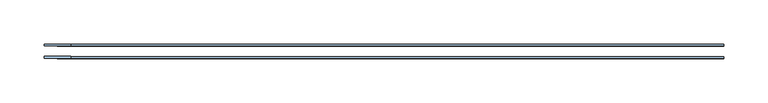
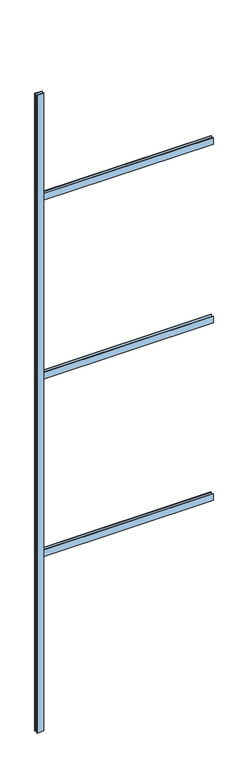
"""IFC4 building model written with IfcOpenShell, lengths in millimetres: window geometry, 32_IM_CF_verdeling_roedes : 32_IM_CF_verdeling_roedes_1x4."""

from ifc_helpers import new_model, si_unit, frame, origin, origin_with_axes, place, context, project, spatial, polyline, outline, extrude, source, transform, mapped, element, save


def window_8e28edf6(model_context):
    return source(origin(), model_context, "Body", "SweptSolid", [
        extrude(outline(polyline([(-362.9999998, -6.0), (-362.9999998, -8.0), (-392.9999998, -8.0), (-392.9999998, -6.0), (-362.9999998, -6.0)])), origin_with_axes(), (0.0, 0.0, 1.0), 2945.0),
        extrude(outline(polyline([(-392.9999998, 8.0), (-362.9999998, 8.0), (-362.9999998, 6.0), (-392.9999998, 6.0), (-392.9999998, 8.0)])), origin_with_axes(), (0.0, 0.0, 1.0), 2945.0),
        extrude(outline(polyline([(377.9999998, -8.0), (-377.9999998, -8.0), (-377.9999998, -6.0), (377.9999998, -6.0), (377.9999998, -8.0)])), frame((0.0, 0.0, 805.0), z_axis=(0.0, 0.0, 1.0), x_axis=(1.0, 0.0, 0.0)), (0.0, 0.0, 1.0), 30.0),
        extrude(outline(polyline([(377.9999998, 6.0), (-377.9999998, 6.0), (-377.9999998, 8.0), (377.9999998, 8.0), (377.9999998, 6.0)])), frame((0.0, 0.0, 805.0), z_axis=(0.0, 0.0, 1.0), x_axis=(1.0, 0.0, 0.0)), (0.0, 0.0, 1.0), 30.0),
        extrude(outline(polyline([(377.9999998, -8.0), (-377.9999998, -8.0), (-377.9999998, -6.0), (377.9999998, -6.0), (377.9999998, -8.0)])), frame((0.0, 0.0, 2450.0), z_axis=(0.0, 0.0, 1.0), x_axis=(1.0, 0.0, 0.0)), (0.0, 0.0, 1.0), 30.0),
        extrude(outline(polyline([(377.9999998, 6.0), (-377.9999998, 6.0), (-377.9999998, 8.0), (377.9999998, 8.0), (377.9999998, 6.0)])), frame((0.0, 0.0, 2450.0), z_axis=(0.0, 0.0, 1.0), x_axis=(1.0, 0.0, 0.0)), (0.0, 0.0, 1.0), 30.0),
        extrude(outline(polyline([(377.9999998, -8.0), (-377.9999998, -8.0), (-377.9999998, -6.0), (377.9999998, -6.0), (377.9999998, -8.0)])), frame((0.0, 0.0, 1625.0), z_axis=(0.0, 0.0, 1.0), x_axis=(1.0, 0.0, 0.0)), (0.0, 0.0, 1.0), 30.0),
        extrude(outline(polyline([(377.9999998, 6.0), (-377.9999998, 6.0), (-377.9999998, 8.0), (377.9999998, 8.0), (377.9999998, 6.0)])), frame((0.0, 0.0, 1625.0), z_axis=(0.0, 0.0, 1.0), x_axis=(1.0, 0.0, 0.0)), (0.0, 0.0, 1.0), 30.0),
    ])


if __name__ == "__main__":
    model = new_model("IFC4")
    model_context = context("Model", 3, world=origin())
    ifc_project = project(units=[si_unit("LENGTHUNIT", "METRE", prefix="MILLI")], contexts=[model_context])
    site = spatial("IfcSite", under=ifc_project)
    building = spatial("IfcBuilding", under=site)
    placement = place(None, origin())
    window_shape = window_8e28edf6(model_context)
    element("IfcWindow", 1, ObjectType="32_IM_CF_verdeling_roedes : 32_IM_CF_verdeling_roedes_1x4", at=placement, inside=building, context=model_context, shape_type="MappedRepresentation", body=[
        mapped(window_shape, transform((0.0, 0.0, 0.0), x_axis=(1.0, 0.0, 0.0), y_axis=(0.0, 1.0, 0.0), z_axis=(0.0, 0.0, 1.0))),
    ])
    save(model, "model.ifc")
